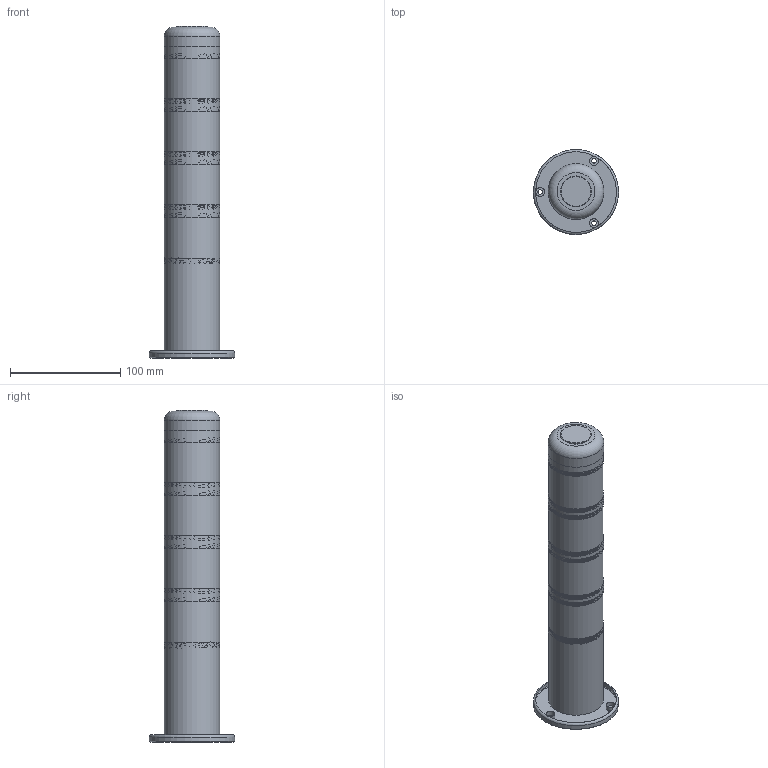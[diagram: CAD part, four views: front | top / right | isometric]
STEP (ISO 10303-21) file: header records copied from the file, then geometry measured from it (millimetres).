
FILE_DESCRIPTION(/* description */ (''),/* implementation_level */ '2;1');
FILE_NAME(/* name */ 'OLE1-401 常亮.stp',/* time_stamp */ '2022-12-13T18:15:41+08:00',/* author */ (''),/* organization */ (''),/* preprocessor_version */ 'ST-DEVELOPER v16.7',/* originating_system */ 'SIEMENS PLM Software NX 12.0',/* authorisation */ '');
FILE_SCHEMA (('AUTOMOTIVE_DESIGN { 1 0 10303 214 3 1 1 1 }'));
Products named in the file (1): Admi15EC76A1t4pj
Bounding box: 77 x 77 x 300.5 mm (x, y, z)
Volume: 161987.5 mm3; surface area: 150447.8 mm2
Topology: 12 solids, 13 shells, 2023 faces, 4865 edges, 3244 vertices
Faces by surface type: plane 1861, cylinder 87, bspline 60, cone 12, torus 3
Full cylindrical faces by diameter (mm): 4 x3, 8 x3, 18 x1, 21.5 x1, 28 x1, 32 x4, 38 x1, 42 x1, 44.2 x4, 45 x1, 45.5 x8, 46.3 x5, 47 x1, 50 x5, 50.3 x5, 77 x1
Entity records: 81731 total; most frequent: CARTESIAN_POINT 36935, ORIENTED_EDGE 9478, DIRECTION 7826, EDGE_CURVE 4739, LINE 3648, VECTOR 3648, VERTEX_POINT 3184, EDGE_LOOP 2467
